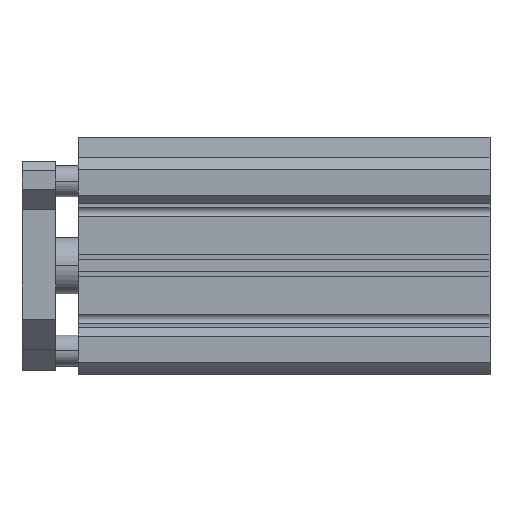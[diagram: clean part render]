
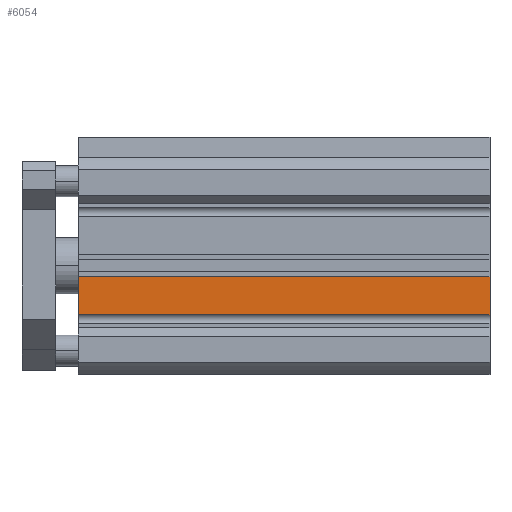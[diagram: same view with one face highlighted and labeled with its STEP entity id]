
A CAD part, top view. The second image highlights one B-rep face of the part: STEP entity #6054.
In plain terms, the highlighted planar face has unit normal (0, 0, 1).
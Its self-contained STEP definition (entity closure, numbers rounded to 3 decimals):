
#59 = EDGE_CURVE ( 'NONE', #1003, #5692, #2713, .T. ) ;
#98 = DIRECTION ( 'NONE',  ( -1., 0., 0. ) ) ;
#259 = VERTEX_POINT ( 'NONE', #1450 ) ;
#348 = CARTESIAN_POINT ( 'NONE',  ( 146., -4., 35.5 ) ) ;
#389 = LINE ( 'NONE', #1264, #4993 ) ;
#824 = DIRECTION ( 'NONE',  ( 0., 0., -1. ) ) ;
#1003 = VERTEX_POINT ( 'NONE', #6076 ) ;
#1080 = ORIENTED_EDGE ( 'NONE', *, *, #4810, .T. ) ;
#1250 = PLANE ( 'NONE',  #5710 ) ;
#1264 = CARTESIAN_POINT ( 'NONE',  ( 146., -4., 35.5 ) ) ;
#1325 = DIRECTION ( 'NONE',  ( -1., 0., 0. ) ) ;
#1450 = CARTESIAN_POINT ( 'NONE',  ( 146., -17.5, 35.5 ) ) ;
#1817 = CARTESIAN_POINT ( 'NONE',  ( 146., -4., 35.5 ) ) ;
#2200 = FACE_OUTER_BOUND ( 'NONE', #2334, .T. ) ;
#2245 = DIRECTION ( 'NONE',  ( 0., -1., 0. ) ) ;
#2334 = EDGE_LOOP ( 'NONE', ( #4584, #4954, #4867, #1080 ) ) ;
#2713 = LINE ( 'NONE', #4689, #3962 ) ;
#2915 = CARTESIAN_POINT ( 'NONE',  ( 146., -17.5, 35.5 ) ) ;
#2933 = VECTOR ( 'NONE', #98, 1000. ) ;
#3328 = EDGE_CURVE ( 'NONE', #259, #5692, #4333, .T. ) ;
#3533 = VECTOR ( 'NONE', #1325, 1000. ) ;
#3962 = VECTOR ( 'NONE', #2245, 1000. ) ;
#4333 = LINE ( 'NONE', #2915, #2933 ) ;
#4584 = ORIENTED_EDGE ( 'NONE', *, *, #59, .T. ) ;
#4689 = CARTESIAN_POINT ( 'NONE',  ( 0., -4., 35.5 ) ) ;
#4810 = EDGE_CURVE ( 'NONE', #4917, #1003, #5948, .T. ) ;
#4867 = ORIENTED_EDGE ( 'NONE', *, *, #5229, .F. ) ;
#4917 = VERTEX_POINT ( 'NONE', #5175 ) ;
#4954 = ORIENTED_EDGE ( 'NONE', *, *, #3328, .F. ) ;
#4993 = VECTOR ( 'NONE', #5943, 1000. ) ;
#5044 = CARTESIAN_POINT ( 'NONE',  ( 0., -17.5, 35.5 ) ) ;
#5175 = CARTESIAN_POINT ( 'NONE',  ( 146., -4., 35.5 ) ) ;
#5229 = EDGE_CURVE ( 'NONE', #4917, #259, #389, .T. ) ;
#5692 = VERTEX_POINT ( 'NONE', #5044 ) ;
#5710 = AXIS2_PLACEMENT_3D ( 'NONE', #348, #824, #5869 ) ;
#5869 = DIRECTION ( 'NONE',  ( 0., -1., 0. ) ) ;
#5943 = DIRECTION ( 'NONE',  ( 0., -1., 0. ) ) ;
#5948 = LINE ( 'NONE', #1817, #3533 ) ;
#6054 = ADVANCED_FACE ( 'NONE', ( #2200 ), #1250, .F. ) ;
#6076 = CARTESIAN_POINT ( 'NONE',  ( 0., -4., 35.5 ) ) ;
